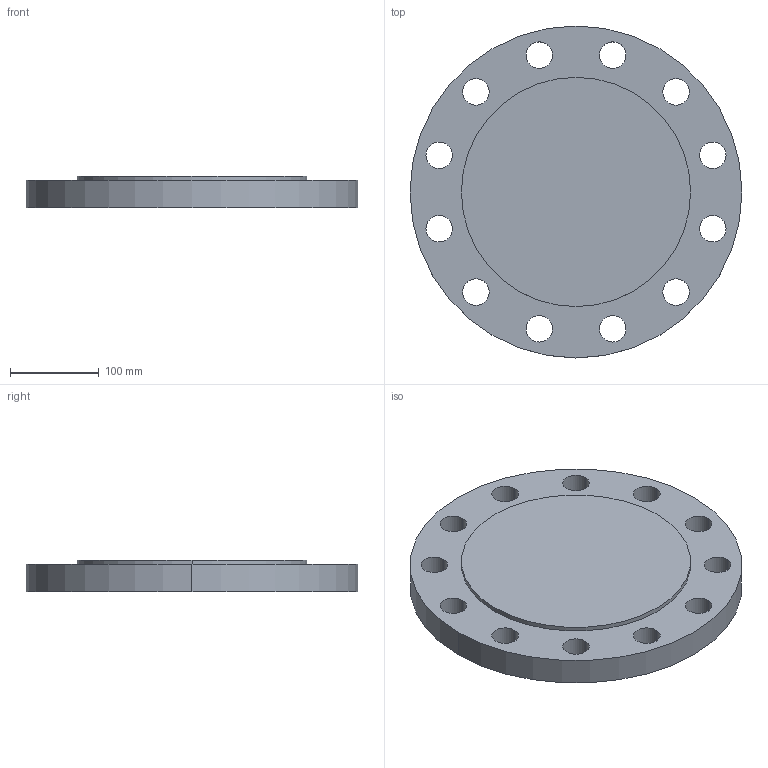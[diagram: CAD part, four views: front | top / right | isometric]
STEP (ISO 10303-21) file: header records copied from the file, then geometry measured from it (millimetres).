
FILE_DESCRIPTION (( 'STEP AP214' ), '1' );
FILE_NAME ('PN40 DN200 Type 05 - Type E Face.STEP', '2019-01-05T02:24:17', ( '' ), ( '' ), 'SwSTEP 2.0', 'SolidWorks 2019', '' );
FILE_SCHEMA (( 'AUTOMOTIVE_DESIGN' ));
Length unit declared in the file: millimetre
Products named in the file (1): PN40 DN200 Type 05 - Type E Face
Bounding box: 375 x 375 x 36 mm (x, y, z)
Volume: 3424320.3 mm3; surface area: 279578.2 mm2
Topology: 1 solids, 1 shells, 31 faces, 84 edges, 56 vertices
Faces by surface type: cylinder 28, plane 3
Entity records: 1096 total; most frequent: DIRECTION 204, CARTESIAN_POINT 172, ORIENTED_EDGE 168, AXIS2_PLACEMENT_3D 88, EDGE_CURVE 84, VERTEX_POINT 56, EDGE_LOOP 56, CIRCLE 56
